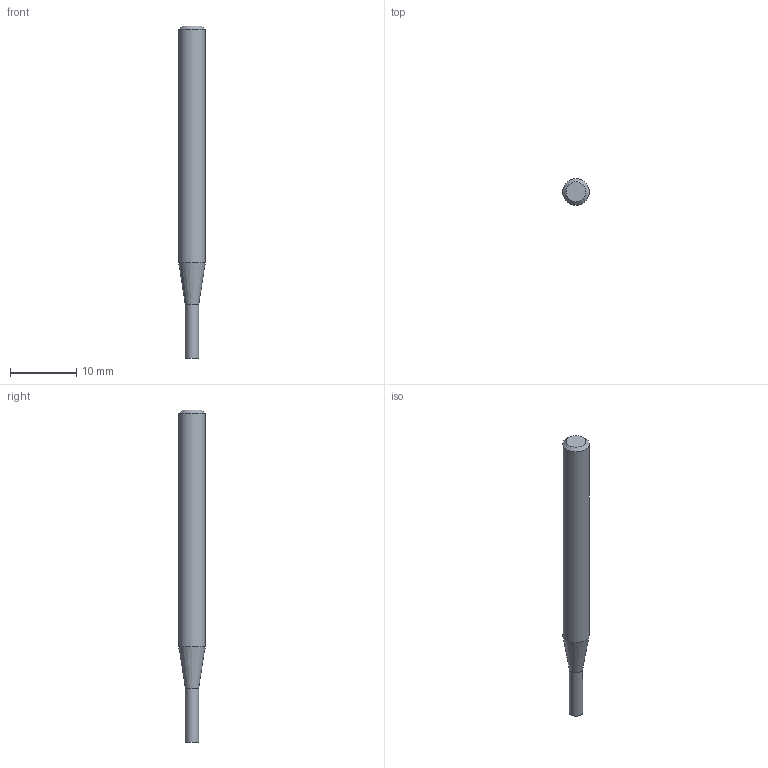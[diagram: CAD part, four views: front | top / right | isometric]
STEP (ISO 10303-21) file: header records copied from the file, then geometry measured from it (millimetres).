
FILE_DESCRIPTION((''),'2;1');
FILE_NAME('C:\Users\nsx150\AppData\Local\Temp\Mastercam 2021\W9Z147XDNF\TEMP.step','2021-04-08T14:47:12',(''),(''),'STEP Write','Mastercam 2021 ... CNC Software, Inc.','');
FILE_SCHEMA(('AUTOMOTIVE_DESIGN'));
Length unit declared in the file: millimetre
Products named in the file (1): None
Bounding box: 4 x 4 x 50 mm (x, y, z)
Volume: 518.4 mm3; surface area: 576.9 mm2
Topology: 2 solids, 2 shells, 8 faces, 10 edges, 6 vertices
Faces by surface type: plane 4, cylinder 2, cone 2
Full cylindrical faces by diameter (mm): 2 x1, 4 x1
Entity records: 190 total; most frequent: DIRECTION 32, CARTESIAN_POINT 22, AXIS2_PLACEMENT_3D 16, ORIENTED_EDGE 12, EDGE_LOOP 12, STYLED_ITEM 11, ADVANCED_FACE 8, VERTEX_POINT 6
